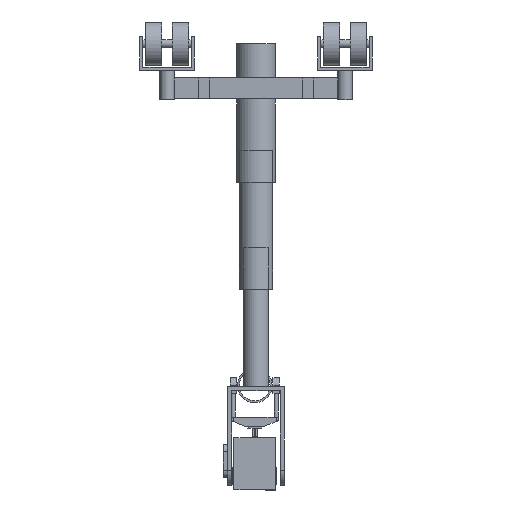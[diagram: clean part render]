
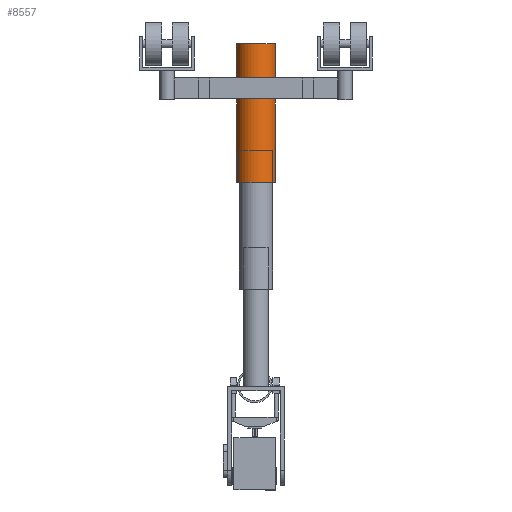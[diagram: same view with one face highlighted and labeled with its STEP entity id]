
A CAD part, front view. The second image highlights one B-rep face of the part: STEP entity #8557.
In plain terms, the highlighted cylindrical face has radius 187.5 mm (diameter 375 mm), a full revolution.
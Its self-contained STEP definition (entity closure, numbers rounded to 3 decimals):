
#389=CIRCLE('',#9659,187.5);
#390=CIRCLE('',#9661,187.5);
#493=CYLINDRICAL_SURFACE('',#9660,187.5);
#1206=FACE_OUTER_BOUND('',#1792,.T.);
#1792=EDGE_LOOP('',(#7628,#7629,#7630,#7631));
#2699=LINE('',#14674,#3601);
#3601=VECTOR('',#12075,187.5);
#4285=VERTEX_POINT('',#14669);
#4286=VERTEX_POINT('',#14672);
#5400=EDGE_CURVE('',#4285,#4285,#389,.T.);
#5401=EDGE_CURVE('',#4286,#4286,#390,.T.);
#5402=EDGE_CURVE('',#4286,#4285,#2699,.T.);
#7628=ORIENTED_EDGE('',*,*,#5401,.F.);
#7629=ORIENTED_EDGE('',*,*,#5402,.T.);
#7630=ORIENTED_EDGE('',*,*,#5400,.T.);
#7631=ORIENTED_EDGE('',*,*,#5402,.F.);
#8557=ADVANCED_FACE('',(#1206),#493,.T.);
#9659=AXIS2_PLACEMENT_3D('',#14670,#12069,#12070);
#9660=AXIS2_PLACEMENT_3D('',#14671,#12071,#12072);
#9661=AXIS2_PLACEMENT_3D('',#14673,#12073,#12074);
#12069=DIRECTION('center_axis',(0.,-1.,0.));
#12070=DIRECTION('ref_axis',(1.,0.,0.));
#12071=DIRECTION('center_axis',(0.,-1.,0.));
#12072=DIRECTION('ref_axis',(1.,0.,0.));
#12073=DIRECTION('center_axis',(0.,-1.,0.));
#12074=DIRECTION('ref_axis',(1.,0.,0.));
#12075=DIRECTION('',(0.,1.,0.));
#14669=CARTESIAN_POINT('',(-187.5,1330.,0.));
#14670=CARTESIAN_POINT('Origin',(0.,1330.,0.));
#14671=CARTESIAN_POINT('Origin',(0.,665.,0.));
#14672=CARTESIAN_POINT('',(-187.5,0.,0.));
#14673=CARTESIAN_POINT('Origin',(0.,0.,
0.));
#14674=CARTESIAN_POINT('',(-187.5,665.,0.));
